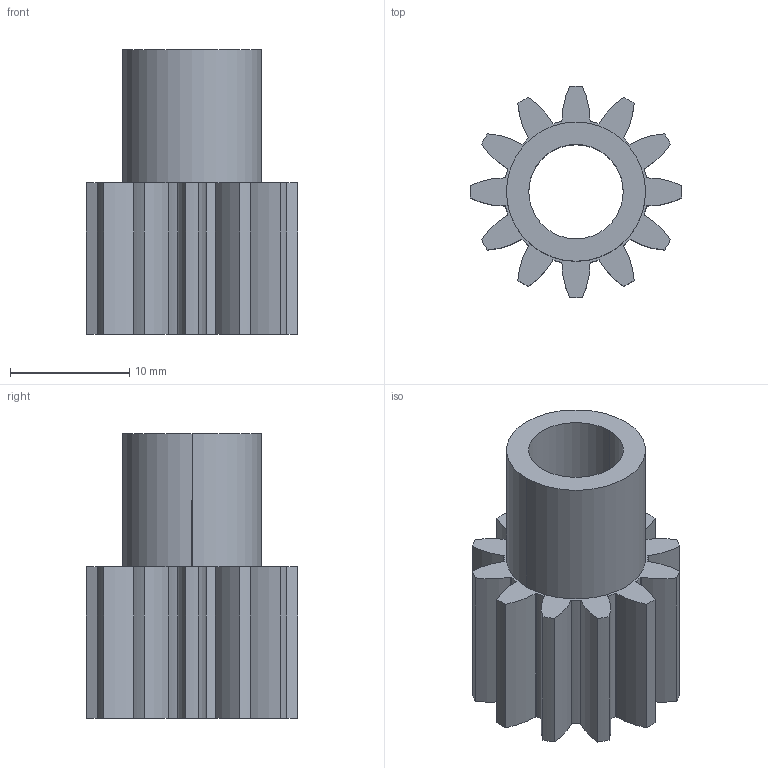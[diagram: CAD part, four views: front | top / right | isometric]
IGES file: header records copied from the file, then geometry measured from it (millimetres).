
Global section: file name: C:\Documents and Settings\Administrator\Desktop\Transfer Temp\gss-2012.igs; native system: AutoDesk Inventor R2.0 ; preprocessor: AutoDesk Inventor Iges Exporter R2.0; author: No Author specified; organization: No Organization specified; date: 20011229.170154; units: inch
Bounding box: 17.78 x 17.78 x 23.88 mm (x, y, z)
Surface area: 2479.4 mm2 (no closed solid volume)
Topology: 0 solids, 0 shells, 79 faces, 456 edges, 456 vertices
Faces by surface type: revolution 74, bspline 5
